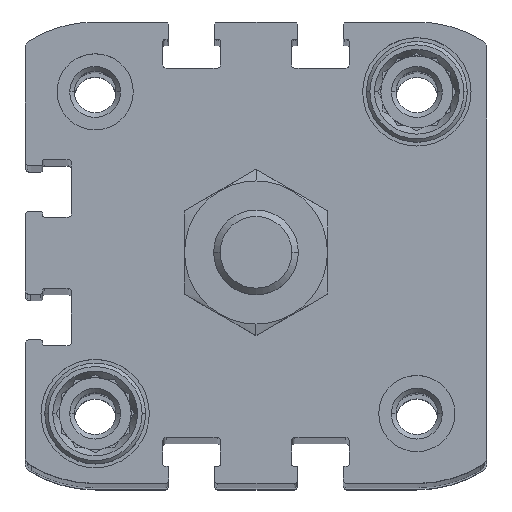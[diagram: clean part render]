
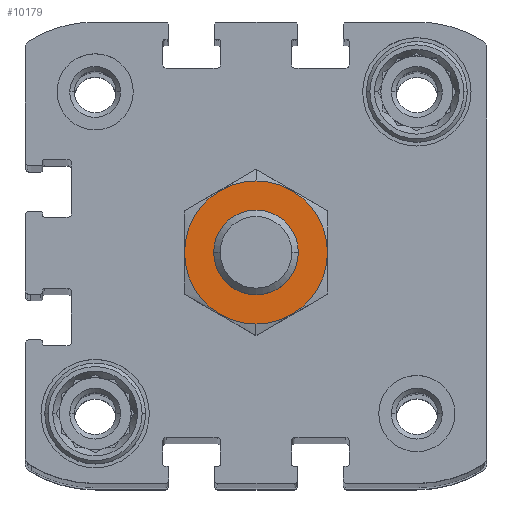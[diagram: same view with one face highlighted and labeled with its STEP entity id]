
A CAD part, top view. The second image highlights one B-rep face of the part: STEP entity #10179.
In plain terms, the highlighted planar face has unit normal (0, 0, 1) as drawn and (0, 1, 0) by its records, which use the part's own axes.
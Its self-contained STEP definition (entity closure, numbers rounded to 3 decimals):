
#8 = EDGE_CURVE ( 'NONE', #4060, #13907, #5865, .T. ) ;
#258 = AXIS2_PLACEMENT_3D ( 'NONE', #9836, #2300, #11089 ) ;
#485 = ORIENTED_EDGE ( 'NONE', *, *, #8, .F. ) ;
#743 = CARTESIAN_POINT ( 'NONE',  ( 0., 0., 0. ) ) ;
#1606 = AXIS2_PLACEMENT_3D ( 'NONE', #12734, #5268, #14017 ) ;
#1623 = CARTESIAN_POINT ( 'NONE',  ( 0., 0., 8.45 ) ) ;
#2300 = DIRECTION ( 'NONE',  ( 0., 1., 0. ) ) ;
#3271 = PLANE ( 'NONE',  #10839 ) ;
#3315 = DIRECTION ( 'NONE',  ( 0., -1., 0. ) ) ;
#4060 = VERTEX_POINT ( 'NONE', #10906 ) ;
#4320 = CIRCLE ( 'NONE', #1606, 5. ) ;
#4520 = ORIENTED_EDGE ( 'NONE', *, *, #10180, .F. ) ;
#5044 = CIRCLE ( 'NONE', #10025, 8.45 ) ;
#5268 = DIRECTION ( 'NONE',  ( 0., 1., 0. ) ) ;
#5529 = CARTESIAN_POINT ( 'NONE',  ( 0., 0., -8.45 ) ) ;
#5605 = CARTESIAN_POINT ( 'NONE',  ( 0., 0., 0. ) ) ;
#5865 = CIRCLE ( 'NONE', #258, 5. ) ;
#6744 = FACE_BOUND ( 'NONE', #8631, .T. ) ;
#6872 = DIRECTION ( 'NONE',  ( 0., 0., -1. ) ) ;
#7088 = DIRECTION ( 'NONE',  ( 0., 0., -1. ) ) ;
#7150 = CARTESIAN_POINT ( 'NONE',  ( 0., 0., -5. ) ) ;
#7170 = VERTEX_POINT ( 'NONE', #5529 ) ;
#8013 = ORIENTED_EDGE ( 'NONE', *, *, #12111, .F. ) ;
#8631 = EDGE_LOOP ( 'NONE', ( #485, #12856 ) ) ;
#9660 = CIRCLE ( 'NONE', #10007, 8.45 ) ;
#9827 = EDGE_LOOP ( 'NONE', ( #8013, #4520 ) ) ;
#9836 = CARTESIAN_POINT ( 'NONE',  ( 0., 0., 0. ) ) ;
#10007 = AXIS2_PLACEMENT_3D ( 'NONE', #10832, #3315, #12078 ) ;
#10025 = AXIS2_PLACEMENT_3D ( 'NONE', #5605, #14341, #6872 ) ;
#10179 = ADVANCED_FACE ( 'NONE', ( #6744, #12969 ), #3271, .F. ) ;
#10180 = EDGE_CURVE ( 'NONE', #10992, #7170, #9660, .T. ) ;
#10832 = CARTESIAN_POINT ( 'NONE',  ( 0., 0., 0. ) ) ;
#10839 = AXIS2_PLACEMENT_3D ( 'NONE', #743, #14561, #7088 ) ;
#10906 = CARTESIAN_POINT ( 'NONE',  ( 0., 0., 5. ) ) ;
#10992 = VERTEX_POINT ( 'NONE', #1623 ) ;
#11089 = DIRECTION ( 'NONE',  ( 0., 0., 1. ) ) ;
#11947 = EDGE_CURVE ( 'NONE', #13907, #4060, #4320, .T. ) ;
#12078 = DIRECTION ( 'NONE',  ( 0., 0., -1. ) ) ;
#12111 = EDGE_CURVE ( 'NONE', #7170, #10992, #5044, .T. ) ;
#12734 = CARTESIAN_POINT ( 'NONE',  ( 0., 0., 0. ) ) ;
#12856 = ORIENTED_EDGE ( 'NONE', *, *, #11947, .F. ) ;
#12969 = FACE_OUTER_BOUND ( 'NONE', #9827, .T. ) ;
#13907 = VERTEX_POINT ( 'NONE', #7150 ) ;
#14017 = DIRECTION ( 'NONE',  ( 0., 0., 1. ) ) ;
#14341 = DIRECTION ( 'NONE',  ( 0., -1., 0. ) ) ;
#14561 = DIRECTION ( 'NONE',  ( 0., -1., 0. ) ) ;
